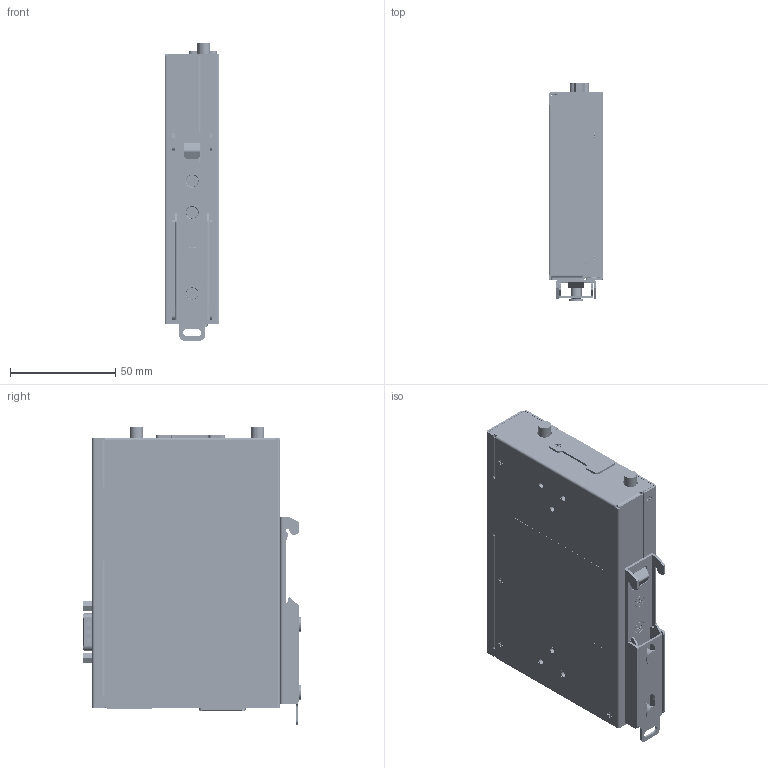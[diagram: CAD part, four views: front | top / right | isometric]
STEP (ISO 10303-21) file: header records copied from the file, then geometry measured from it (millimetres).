
FILE_DESCRIPTION((''),'2;1');
FILE_NAME('00_UC_3101_ASM','2020-05-28T10:25:55',('ChrisYC_Huang'),('PTC'),'CREO PARAMETRIC BY PTC INC, 2018020','CREO PARAMETRIC BY PTC INC, 2018020','');
FILE_SCHEMA(('CONFIG_CONTROL_DESIGN'));
Products named in the file (37): UC-3101_BOT_PCB; 1126411110219_RJ45_CHRIS; 1109000040700_TACKSW_CHRIS; 1126101041212_PIN_HANDER_CHRIS; ZP90_03B03_30XX_CHRIS; 1126010004000_USBX1_CHRIS; SAF_0020_GBT5_CHRIS; E2002_SIMPLIFY_CHRIS; UC-3100_1111000000800_ECH350RM; 1106999994300_90_LED_CHRIS; 1106999997500_LED_CHRIS; 1126400091224_DB9M-SM10; UC-3101_BOT_PCB_ASM; UC_3101_PCB_ASM; UC_3101_BOT_COVER; UC_3100_NUT_SSO; UC_3100_M3_NUT; UC_3101_BOT_COVER_ASM; UC_3101_TOP_COVER; UC_3100_STANDOFF_M2_5X6; UC_3100_STANDOFF_M2_5X5_5; SINK_20X20X3; UC-3100_SHEET; UC_3101_TOP_COVER_ASM; UC_3100_SIM_DOOR; UC_3100_DOOR_MYLAR; UC_3100_SIM_DOOR_ASM; UC_3100_LED_SPONGE; UC_3101_TOP_LABEL; UC_3100_PILLARS; UC_3101_LABEL; UC_3100_1402221010027_M3X6; UC_3100_1204000001400; UC_3100_DIN_RAIL_KIT; UC-3101_DXF; SMA-JACK-W-HOLDER_ASM; 00_UC_3101_ASM
Assembly tree (77 placements, depth 4):
  00_UC_3101_ASM
    UC_3101_PCB_ASM
      UC-3101_BOT_PCB_ASM
        UC-3101_BOT_PCB
        1126411110219_RJ45_CHRIS  x2
        1109000040700_TACKSW_CHRIS
        1126101041212_PIN_HANDER_CHRIS
        ZP90_03B03_30XX_CHRIS
        1126010004000_USBX1_CHRIS
        SAF_0020_GBT5_CHRIS  x2
        E2002_SIMPLIFY_CHRIS  x2
        UC-3100_1111000000800_ECH350RM
        1106999994300_90_LED_CHRIS  x7
        1106999997500_LED_CHRIS  x11
        1126400091224_DB9M-SM10
    UC_3101_BOT_COVER_ASM
      UC_3101_BOT_COVER
      UC_3100_NUT_SSO
      UC_3100_M3_NUT  x11
    UC_3101_TOP_COVER_ASM
      UC_3101_TOP_COVER
      UC_3100_STANDOFF_M2_5X6  x2
      UC_3100_STANDOFF_M2_5X5_5
      UC_3100_M3_NUT
      SINK_20X20X3
      UC-3100_SHEET
    UC_3100_SIM_DOOR_ASM
      UC_3100_SIM_DOOR
      UC_3100_DOOR_MYLAR
    UC_3100_LED_SPONGE
    UC_3101_TOP_LABEL
    UC_3100_PILLARS  x2
    UC_3101_LABEL
    UC_3100_1402221010027_M3X6  x10
    UC_3100_1204000001400
    UC_3100_DIN_RAIL_KIT
    UC-3101_DXF
    SMA-JACK-W-HOLDER_ASM
Bounding box: 26.1 x 103.2 x 141.2 mm (x, y, z)
Surface area: 153309.9 mm2 (no closed solid volume)
Topology: 0 solids, 0 shells, 7669 faces, 42666 edges, 42512 vertices
Faces by surface type: plane 4648, cylinder 2193, extrusion 270, bspline 243, torus 163, cone 104, sphere 38, revolution 10
Entity records: 727835 total; most frequent: CARTESIAN_POINT 444169, DIRECTION 52138, TRIMMED_CURVE 38295, VECTOR 35067, LINE 34927, DEFINITIONAL_REPRESENTATION 29336, PCURVE 29336, COMPOSITE_CURVE_SEGMENT 29336
